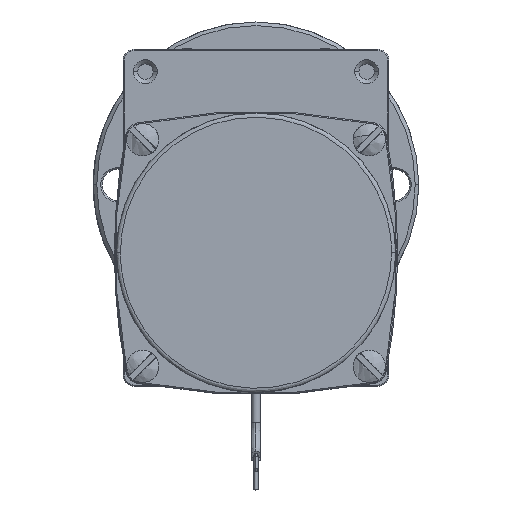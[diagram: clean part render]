
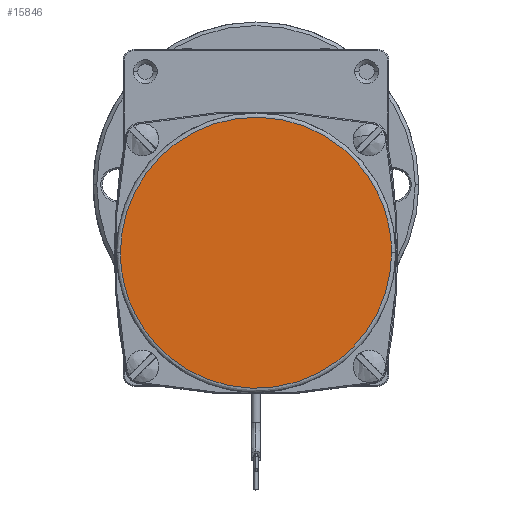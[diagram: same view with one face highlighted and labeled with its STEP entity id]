
A CAD part, top view. The second image highlights one B-rep face of the part: STEP entity #15846.
In plain terms, the highlighted planar face has unit normal (0, 0, 1).
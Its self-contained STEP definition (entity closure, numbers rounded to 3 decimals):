
#128 = CARTESIAN_POINT ( 'NONE',  ( -2.887, -1.509, 36.624 ) ) ;
#129 = CARTESIAN_POINT ( 'NONE',  ( -2.887, 4.265, 36.624 ) ) ;
#1274 = CARTESIAN_POINT ( 'NONE',  ( 2.887, 4.265, 36.624 ) ) ;
#1275 = CARTESIAN_POINT ( 'NONE',  ( 2.887, -1.509, 36.624 ) ) ;
#5182 = AXIS2_PLACEMENT_3D ( 'NONE', #57565, #57570, #57571 ) ;
#6008 = FACE_OUTER_BOUND ( 'NONE', #33392, .T. ) ;
#15846 = ADVANCED_FACE ( 'NONE', ( #6008 ), #57567, .T. ) ;
#17366 =( BOUNDED_CURVE ( )  B_SPLINE_CURVE ( 3, ( #128, #129, #1274, #1275 ),
 .UNSPECIFIED., .F., .F. ) 
 B_SPLINE_CURVE_WITH_KNOTS ( ( 4, 4 ),
 ( 0., 0.5 ),
 .UNSPECIFIED. ) 
 CURVE ( )  GEOMETRIC_REPRESENTATION_ITEM ( )  RATIONAL_B_SPLINE_CURVE ( ( 1., 0.333, 0.333, 1. ) ) 
 REPRESENTATION_ITEM ( '' )  );
#26304 = VERTEX_POINT ( 'NONE', #36476 ) ;
#26305 = VERTEX_POINT ( 'NONE', #36477 ) ;
#33392 = EDGE_LOOP ( 'NONE', ( #49699, #49940 ) ) ;
#36476 = CARTESIAN_POINT ( 'NONE',  ( 2.887, -1.509, 36.624 ) ) ;
#36477 = CARTESIAN_POINT ( 'NONE',  ( -2.887, -1.509, 36.624 ) ) ;
#39686 =( BOUNDED_CURVE ( )  B_SPLINE_CURVE ( 3, ( #61446, #61443, #61449, #61450 ),
 .UNSPECIFIED., .F., .F. ) 
 B_SPLINE_CURVE_WITH_KNOTS ( ( 4, 4 ),
 ( 0.5, 1. ),
 .UNSPECIFIED. ) 
 CURVE ( )  GEOMETRIC_REPRESENTATION_ITEM ( )  RATIONAL_B_SPLINE_CURVE ( ( 1., 0.333, 0.333, 1. ) ) 
 REPRESENTATION_ITEM ( '' )  );
#41680 = EDGE_CURVE ( 'NONE', #26304, #26305, #39686, .T. ) ;
#49699 = ORIENTED_EDGE ( 'NONE', *, *, #69275, .F. ) ;
#49940 = ORIENTED_EDGE ( 'NONE', *, *, #41680, .F. ) ;
#57565 = CARTESIAN_POINT ( 'NONE',  ( 0., -1.509, 36.624 ) ) ;
#57567 = PLANE ( 'NONE',  #5182 ) ;
#57570 = DIRECTION ( 'NONE',  ( 0., 0., 1. ) ) ;
#57571 = DIRECTION ( 'NONE',  ( 1., 0., 0. ) ) ;
#61443 = CARTESIAN_POINT ( 'NONE',  ( 2.887, -7.282, 36.624 ) ) ;
#61446 = CARTESIAN_POINT ( 'NONE',  ( 2.887, -1.509, 36.624 ) ) ;
#61449 = CARTESIAN_POINT ( 'NONE',  ( -2.887, -7.282, 36.624 ) ) ;
#61450 = CARTESIAN_POINT ( 'NONE',  ( -2.887, -1.509, 36.624 ) ) ;
#69275 = EDGE_CURVE ( 'NONE', #26305, #26304, #17366, .T. ) ;
